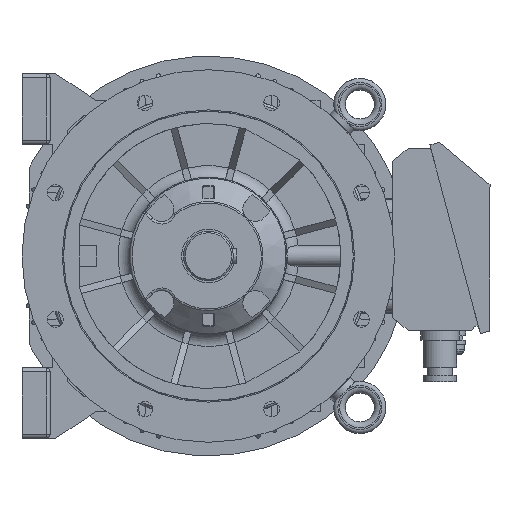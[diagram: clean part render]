
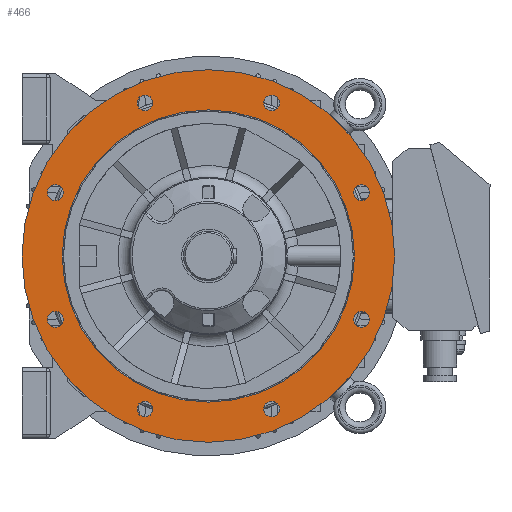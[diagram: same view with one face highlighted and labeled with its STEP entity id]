
A CAD part, front view. The second image highlights one B-rep face of the part: STEP entity #466.
In plain terms, the highlighted planar face has unit normal (0, -1, 0).
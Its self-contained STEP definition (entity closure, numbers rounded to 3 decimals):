
#466 = ADVANCED_FACE( '', ( #1898, #1899, #1900, #1901, #1902, #1903, #1904, #1905, #1906, #1907 ), #1908, .F. );
#1898 = FACE_BOUND( '', #5127, .T. );
#1899 = FACE_BOUND( '', #5128, .T. );
#1900 = FACE_BOUND( '', #5129, .T. );
#1901 = FACE_BOUND( '', #5130, .T. );
#1902 = FACE_BOUND( '', #5131, .T. );
#1903 = FACE_BOUND( '', #5132, .T. );
#1904 = FACE_BOUND( '', #5133, .T. );
#1905 = FACE_BOUND( '', #5134, .T. );
#1906 = FACE_BOUND( '', #5135, .T. );
#1907 = FACE_OUTER_BOUND( '', #5136, .T. );
#1908 = PLANE( '', #5137 );
#5127 = EDGE_LOOP( '', ( #9832 ) );
#5128 = EDGE_LOOP( '', ( #9833 ) );
#5129 = EDGE_LOOP( '', ( #9834 ) );
#5130 = EDGE_LOOP( '', ( #9835 ) );
#5131 = EDGE_LOOP( '', ( #9836 ) );
#5132 = EDGE_LOOP( '', ( #9837 ) );
#5133 = EDGE_LOOP( '', ( #9838 ) );
#5134 = EDGE_LOOP( '', ( #9839 ) );
#5135 = EDGE_LOOP( '', ( #9840 ) );
#5136 = EDGE_LOOP( '', ( #9841 ) );
#5137 = AXIS2_PLACEMENT_3D( '', #9842, #9843, #9844 );
#9832 = ORIENTED_EDGE( '', *, *, #15251, .F. );
#9833 = ORIENTED_EDGE( '', *, *, #15897, .F. );
#9834 = ORIENTED_EDGE( '', *, *, #15899, .F. );
#9835 = ORIENTED_EDGE( '', *, *, #15901, .F. );
#9836 = ORIENTED_EDGE( '', *, *, #15903, .F. );
#9837 = ORIENTED_EDGE( '', *, *, #15905, .F. );
#9838 = ORIENTED_EDGE( '', *, *, #15907, .F. );
#9839 = ORIENTED_EDGE( '', *, *, #15908, .F. );
#9840 = ORIENTED_EDGE( '', *, *, #15253, .F. );
#9841 = ORIENTED_EDGE( '', *, *, #15260, .F. );
#9842 = CARTESIAN_POINT( '', ( 0., -84.5, 176.395 ) );
#9843 = DIRECTION( '', ( 0., 1., 0. ) );
#9844 = DIRECTION( '', ( 0., 0., 1. ) );
#15251 = EDGE_CURVE( '', #18526, #18526, #18527, .T. );
#15253 = EDGE_CURVE( '', #18530, #18530, #18531, .T. );
#15260 = EDGE_CURVE( '', #18544, #18544, #18545, .T. );
#15897 = EDGE_CURVE( '', #19661, #19661, #19662, .T. );
#15899 = EDGE_CURVE( '', #19665, #19665, #19666, .T. );
#15901 = EDGE_CURVE( '', #19669, #19669, #19670, .T. );
#15903 = EDGE_CURVE( '', #19673, #19673, #19674, .T. );
#15905 = EDGE_CURVE( '', #19677, #19677, #19678, .T. );
#15907 = EDGE_CURVE( '', #19681, #19681, #19682, .T. );
#15908 = EDGE_CURVE( '', #19683, #19683, #19684, .T. );
#18526 = VERTEX_POINT( '', #24054 );
#18527 = CIRCLE( '', #24055, 176.395 );
#18530 = VERTEX_POINT( '', #24058 );
#18531 = CIRCLE( '', #24059, 9.5 );
#18544 = VERTEX_POINT( '', #24098 );
#18545 = CIRCLE( '', #24099, 224.995 );
#19661 = VERTEX_POINT( '', #27506 );
#19662 = CIRCLE( '', #27507, 9.5 );
#19665 = VERTEX_POINT( '', #27510 );
#19666 = CIRCLE( '', #27511, 9.5 );
#19669 = VERTEX_POINT( '', #27514 );
#19670 = CIRCLE( '', #27515, 9.5 );
#19673 = VERTEX_POINT( '', #27518 );
#19674 = CIRCLE( '', #27519, 9.5 );
#19677 = VERTEX_POINT( '', #27522 );
#19678 = CIRCLE( '', #27523, 9.5 );
#19681 = VERTEX_POINT( '', #27526 );
#19682 = CIRCLE( '', #27527, 9.5 );
#19683 = VERTEX_POINT( '', #27528 );
#19684 = CIRCLE( '', #27529, 9.5 );
#24054 = CARTESIAN_POINT( '', ( 0., -84.5, -176.395 ) );
#24055 = AXIS2_PLACEMENT_3D( '', #31752, #31753, #31754 );
#24058 = CARTESIAN_POINT( '', ( 184.776, -84.5, -86.037 ) );
#24059 = AXIS2_PLACEMENT_3D( '', #31758, #31759, #31760 );
#24098 = CARTESIAN_POINT( '', ( 0., -84.5, 224.995 ) );
#24099 = AXIS2_PLACEMENT_3D( '', #31773, #31774, #31775 );
#27506 = CARTESIAN_POINT( '', ( 76.537, -84.5, -194.276 ) );
#27507 = AXIS2_PLACEMENT_3D( '', #32726, #32727, #32728 );
#27510 = CARTESIAN_POINT( '', ( -76.537, -84.5, -194.276 ) );
#27511 = AXIS2_PLACEMENT_3D( '', #32732, #32733, #32734 );
#27514 = CARTESIAN_POINT( '', ( -184.776, -84.5, -86.037 ) );
#27515 = AXIS2_PLACEMENT_3D( '', #32738, #32739, #32740 );
#27518 = CARTESIAN_POINT( '', ( -184.776, -84.5, 67.037 ) );
#27519 = AXIS2_PLACEMENT_3D( '', #32744, #32745, #32746 );
#27522 = CARTESIAN_POINT( '', ( -76.537, -84.5, 175.276 ) );
#27523 = AXIS2_PLACEMENT_3D( '', #32750, #32751, #32752 );
#27526 = CARTESIAN_POINT( '', ( 76.537, -84.5, 175.276 ) );
#27527 = AXIS2_PLACEMENT_3D( '', #32756, #32757, #32758 );
#27528 = CARTESIAN_POINT( '', ( 184.776, -84.5, 67.037 ) );
#27529 = AXIS2_PLACEMENT_3D( '', #32759, #32760, #32761 );
#31752 = CARTESIAN_POINT( '', ( 0., -84.5, 0. ) );
#31753 = DIRECTION( '', ( 0., -1., 0. ) );
#31754 = DIRECTION( '', ( 0., 0., -1. ) );
#31758 = CARTESIAN_POINT( '', ( 184.776, -84.5, -76.537 ) );
#31759 = DIRECTION( '', ( 0., -1., 0. ) );
#31760 = DIRECTION( '', ( 0., 0., -1. ) );
#31773 = CARTESIAN_POINT( '', ( 0., -84.5, 0. ) );
#31774 = DIRECTION( '', ( 0., 1., 0. ) );
#31775 = DIRECTION( '', ( 0., 0., 1. ) );
#32726 = CARTESIAN_POINT( '', ( 76.537, -84.5, -184.776 ) );
#32727 = DIRECTION( '', ( 0., -1., 0. ) );
#32728 = DIRECTION( '', ( 0., 0., -1. ) );
#32732 = CARTESIAN_POINT( '', ( -76.537, -84.5, -184.776 ) );
#32733 = DIRECTION( '', ( 0., -1., 0. ) );
#32734 = DIRECTION( '', ( 0., 0., -1. ) );
#32738 = CARTESIAN_POINT( '', ( -184.776, -84.5, -76.537 ) );
#32739 = DIRECTION( '', ( 0., -1., 0. ) );
#32740 = DIRECTION( '', ( 0., 0., -1. ) );
#32744 = CARTESIAN_POINT( '', ( -184.776, -84.5, 76.537 ) );
#32745 = DIRECTION( '', ( 0., -1., 0. ) );
#32746 = DIRECTION( '', ( 0., 0., -1. ) );
#32750 = CARTESIAN_POINT( '', ( -76.537, -84.5, 184.776 ) );
#32751 = DIRECTION( '', ( 0., -1., 0. ) );
#32752 = DIRECTION( '', ( 0., 0., -1. ) );
#32756 = CARTESIAN_POINT( '', ( 76.537, -84.5, 184.776 ) );
#32757 = DIRECTION( '', ( 0., -1., 0. ) );
#32758 = DIRECTION( '', ( 0., 0., -1. ) );
#32759 = CARTESIAN_POINT( '', ( 184.776, -84.5, 76.537 ) );
#32760 = DIRECTION( '', ( 0., -1., 0. ) );
#32761 = DIRECTION( '', ( 0., 0., -1. ) );
